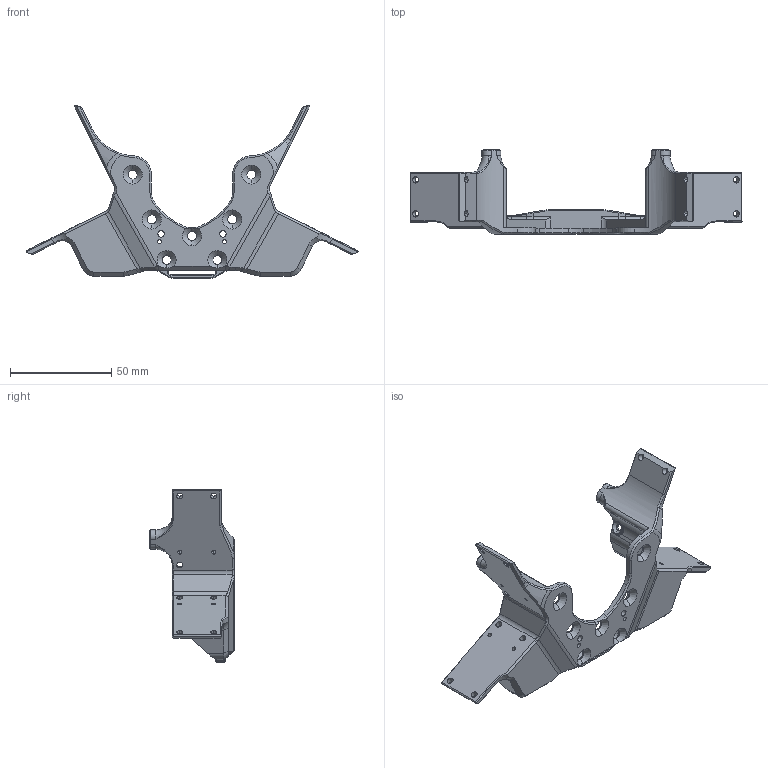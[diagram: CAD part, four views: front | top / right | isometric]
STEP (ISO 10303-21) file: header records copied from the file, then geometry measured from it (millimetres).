
FILE_DESCRIPTION (( 'STEP AP203' ), '1' );
FILE_NAME ('BR01_BODY_RevE.STEP');
FILE_SCHEMA (( 'CONFIG_CONTROL_DESIGN' ));
Length unit declared in the file: millimetre
Products named in the file (1): BR01_BODY_RevE
Bounding box: 163.62 x 41.5 x 85.25 mm (x, y, z)
Volume: 38643.9 mm3; surface area: 24793.1 mm2
Topology: 1 solids, 1 shells, 515 faces, 1341 edges, 797 vertices
Faces by surface type: cylinder 167, plane 150, cone 100, bspline 82, torus 16
Entity records: 21720 total; most frequent: CARTESIAN_POINT 9873, ORIENTED_EDGE 2654, DIRECTION 2194, EDGE_CURVE 1327, AXIS2_PLACEMENT_3D 813, VERTEX_POINT 797, LINE 568, VECTOR 568
